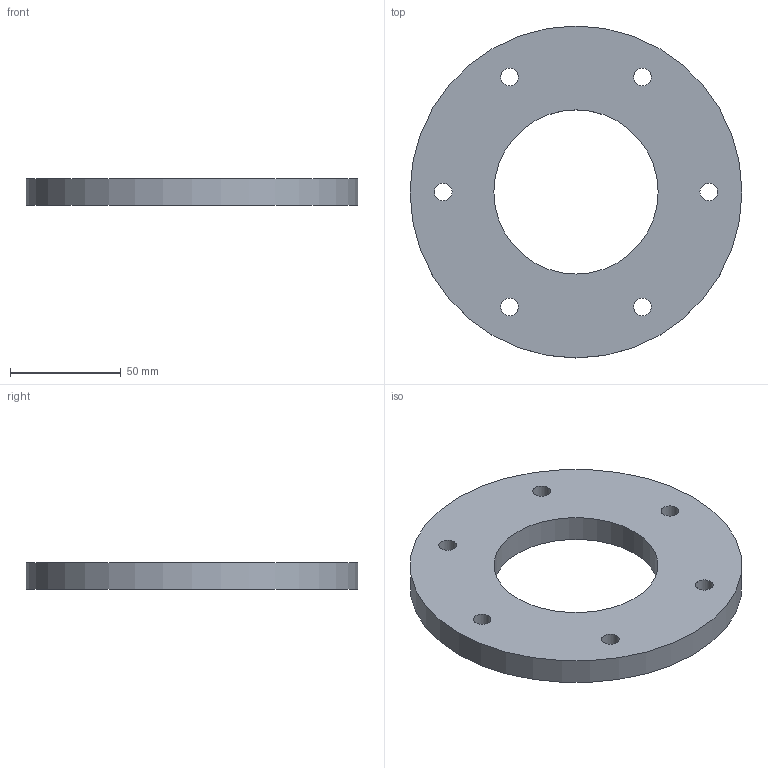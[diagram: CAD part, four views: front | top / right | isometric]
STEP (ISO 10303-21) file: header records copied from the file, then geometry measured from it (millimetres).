
FILE_DESCRIPTION(('Open CASCADE Model'),'2;1');
FILE_NAME('Open CASCADE Shape Model','2026-10-08T06:53:14',('Author'),( 'Open CASCADE'),'Open CASCADE STEP processor 7.8','Open CASCADE 7.8' ,'Unknown');
FILE_SCHEMA(('AUTOMOTIVE_DESIGN { 1 0 10303 214 1 1 1 1 }'));
Length unit declared in the file: millimetre
Products named in the file (1): Open CASCADE STEP translator 7.8 31
Bounding box: 150 x 150 x 12 mm (x, y, z)
Volume: 156549 mm3; surface area: 36353.2 mm2
Topology: 1 solids, 1 shells, 10 faces, 24 edges, 16 vertices
Faces by surface type: cylinder 8, plane 2
Full cylindrical faces by diameter (mm): 8 x6, 74.2 x1, 150 x1
Entity records: 690 total; most frequent: CARTESIAN_POINT 171, DIRECTION 98, ORIENTED_EDGE 48, PCURVE 48, DEFINITIONAL_REPRESENTATION 48, LINE 40, VECTOR 40, AXIS2_PLACEMENT_3D 27
